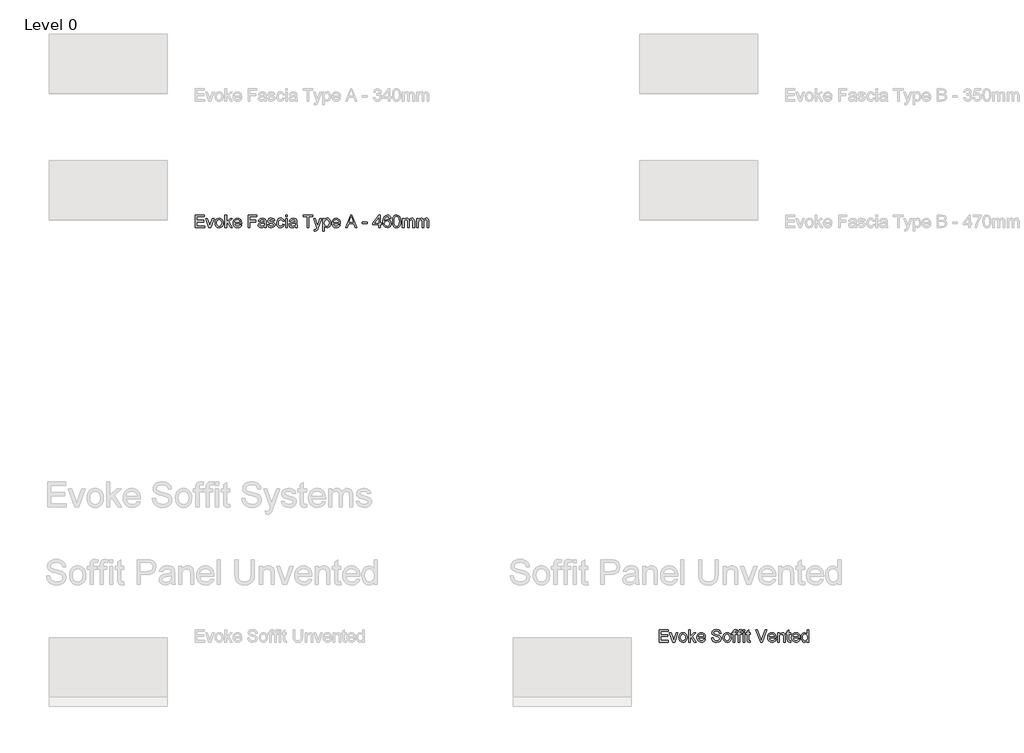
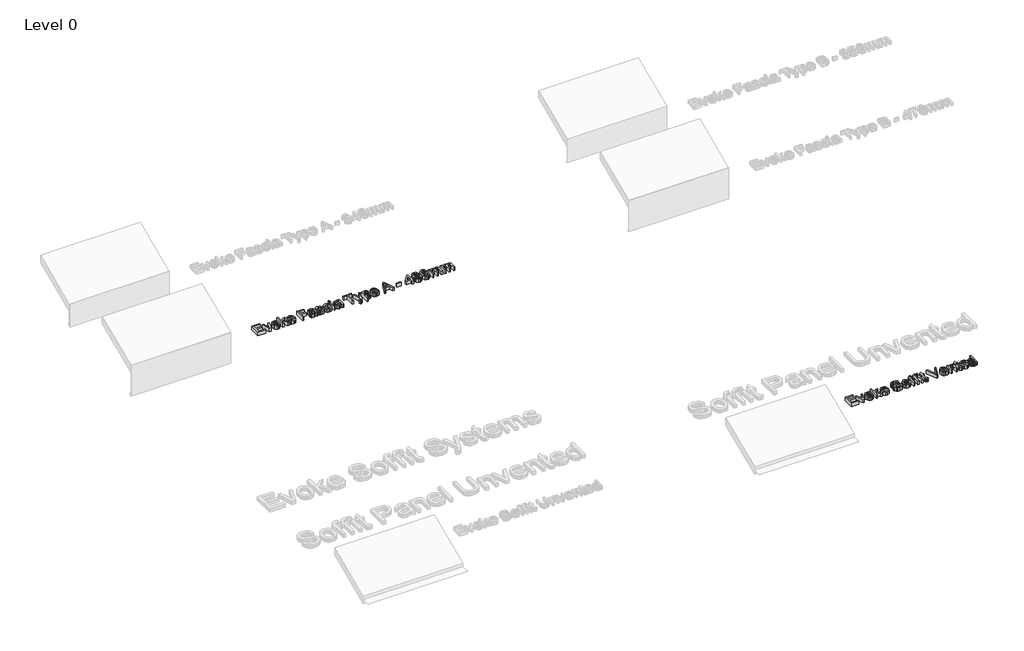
# One storey, part 3 of 13: 2 proxies.
"""IFC4 building model written with IfcOpenShell, lengths in millimetres."""

from ifc_helpers import new_model, si_unit, origin, origin_with_axes, place, context, project, spatial, polyline, outline, extrude, element, save

model = new_model("IFC4")

# Units and contexts
model_context = context("Model", 3, world=origin())
ifc_project = project(units=[si_unit("LENGTHUNIT", "METRE", prefix="MILLI")], contexts=[model_context])

# Site, building, storey
site = spatial("IfcSite", under=ifc_project)
building = spatial("IfcBuilding", under=site)
storey = spatial("IfcBuildingStorey", under=building, Name="Level 0", Elevation=0.0)

# Proxies
placement = place(None, origin())
element("IfcBuildingElementProxy", 1, Name="150mm Arial", ObjectType="150mm Arial", at=placement, inside=storey, context=model_context, shape_type="SweptSolid", body=[
    extrude(outline(polyline([(-1431.2798957, -139.3317689), (-1431.2798957, 8.3605388), (-1325.1260496, 8.3605388), (-1325.1260496, -10.1009997), (-1412.8183573, -10.1009997), (-1412.8183573, -53.9471535), (-1329.7414342, -53.9471535), (-1329.7414342, -72.408692), (-1412.8183573, -72.408692), (-1412.8183573, -120.8702305), (-1322.8183573, -120.8702305), (-1322.8183573, -139.3317689), (-1431.2798957, -139.3317689)])), origin_with_axes(), (0.0, 0.0, 1.0), 50.0),
    extrude(outline(polyline([(-1270.823165, -139.3317689), (-1308.9722034, -30.8702305), (-1289.4289342, -30.8702305), (-1266.3159534, -95.846192), (-1259.3568188, -117.6971535), (-1252.541915, -97.0721535), (-1229.2847034, -30.8702305), (-1209.7414342, -30.8702305), (-1247.4217226, -139.3317689), (-1270.823165, -139.3317689)])), origin_with_axes(), (0.0, 0.0, 1.0), 50.0),
    extrude(outline(polyline([(-1198.2029726, -85.1009997), (-1194.2095832, -58.9501584), (-1182.229415, -40.5697497), (-1167.4277323, -31.564341), (-1149.7053765, -28.5625382), (-1130.3108452, -32.2178867), (-1114.8195592, -43.1839324), (-1104.6648116, -60.5952906), (-1101.2798957, -83.5865766), (-1102.77629, -102.237418), (-1107.2654726, -116.4351343), (-1114.6167347, -127.0676463), (-1124.6993669, -135.0228747), (-1136.6750279, -139.9853146), (-1149.7053765, -141.6394612), (-1169.3342827, -137.9976343), (-1184.80754, -127.0721535), (-1194.8541145, -109.2957112), (-1198.2029726, -85.1009997)]), holes=[polyline([(-1179.7414342, -85.064942), (-1177.6050159, -101.7731752), (-1171.1957611, -113.6767209), (-1161.5503284, -120.8026223), (-1149.7053765, -123.1779228), (-1137.9145111, -120.7891007), (-1128.2871073, -113.6226343), (-1121.8778525, -101.5613362), (-1119.7414342, -84.4880189), (-1121.8913741, -68.2665646), (-1128.3411938, -56.5252785), (-1137.9821193, -49.3993771), (-1149.7053765, -47.0240766), (-1161.5503284, -49.3903627), (-1171.1957611, -56.4892209), (-1177.6050159, -68.3657233), (-1179.7414342, -85.064942)])]), origin_with_axes(), (0.0, 0.0, 1.0), 50.0),
    extrude(outline(polyline([(-1080.510665, -139.3317689), (-1080.510665, 8.3605388), (-1062.0491265, 8.3605388), (-1062.0491265, -71.002442), (-1020.6548957, -30.8702305), (-995.1260496, -30.8702305), (-1037.025088, -71.5072497), (-992.8183573, -139.3317689), (-1014.3808573, -139.3317689), (-1050.2582611, -84.3437882), (-1062.0491265, -95.7740766), (-1062.0491265, -139.3317689), (-1080.510665, -139.3317689)])), origin_with_axes(), (0.0, 0.0, 1.0), 50.0),
    extrude(outline(polyline([(-900.7270111, -107.0240766), (-882.6260496, -109.3317689), (-889.1479847, -122.970591), (-899.5551361, -133.1659035), (-913.6131289, -139.5210718), (-931.087588, -141.6394612), (-952.7492467, -137.9841127), (-969.416915, -127.018067), (-980.0449198, -109.4534636), (-983.587588, -86.002442), (-980.0088621, -61.7626584), (-969.2726842, -43.6346535), (-952.8303765, -32.330567), (-932.1332611, -28.5625382), (-912.080677, -32.3215526), (-896.05754, -43.5985959), (-885.5512299, -61.690543), (-882.0491265, -85.8942689), (-882.1572996, -90.8702305), (-965.1260496, -90.8702305), (-961.9304366, -104.689341), (-954.5070592, -114.8485959), (-943.7934174, -121.095591), (-930.7270111, -123.1779228), (-912.6260496, -119.3197497), (-900.7270111, -107.0240766)]), holes=[polyline([(-965.1260496, -72.408692), (-900.510665, -72.408692), (-903.0076601, -62.6550862), (-907.9024919, -55.6779228), (-918.665713, -49.1875382), (-932.2053765, -47.0240766), (-944.6497876, -48.7503386), (-954.9397515, -53.9291247), (-962.0926962, -62.0015406), (-965.1260496, -72.408692)])]), origin_with_axes(), (0.0, 0.0, 1.0), 50.0),
    extrude(outline(polyline([(-803.587588, -139.3317689), (-803.587588, 8.3605388), (-704.3568188, 8.3605388), (-704.3568188, -10.1009997), (-785.1260496, -10.1009997), (-785.1260496, -53.9471535), (-715.8952803, -53.9471535), (-715.8952803, -72.408692), (-785.1260496, -72.408692), (-785.1260496, -139.3317689), (-803.587588, -139.3317689)])), origin_with_axes(), (0.0, 0.0, 1.0), 50.0),
    extrude(outline(polyline([(-612.0491265, -125.4856151), (-629.9517707, -137.9976343), (-649.729415, -141.6394612), (-665.1576001, -139.4489564), (-676.5383092, -132.877442), (-683.5560376, -122.8984757), (-685.8952803, -110.4856151), (-682.3616265, -95.8822497), (-673.0767707, -85.2812882), (-660.150088, -79.2235959), (-644.1765303, -76.4471535), (-612.1572996, -70.1009997), (-612.0491265, -65.9904228), (-613.3201601, -57.7512401), (-617.1332611, -52.3606151), (-625.6609053, -48.3582112), (-637.541915, -47.0240766), (-656.2197996, -50.5757593), (-665.1260496, -63.1779228), (-683.587588, -60.8702305), (-675.6008092, -42.8413843), (-659.5190784, -32.2764805), (-635.1621073, -28.5625382), (-612.7883092, -31.8437882), (-600.150088, -40.0829709), (-594.4890303, -52.6130189), (-593.587588, -68.7668651), (-593.587588, -91.7356151), (-592.650088, -123.8089324), (-588.9722034, -139.3317689), (-607.4337419, -139.3317689), (-612.0491265, -125.4856151)]), holes=[polyline([(-612.0491265, -88.5625382), (-641.8327803, -94.2235959), (-657.7161938, -97.2163843), (-664.9097034, -102.0841728), (-667.4337419, -109.1875382), (-661.9349438, -119.1755189), (-645.7991265, -123.1779228), (-627.1212419, -118.7608555), (-615.0779726, -108.0697497), (-612.1572996, -93.7909035), (-612.0491265, -88.5625382)])]), origin_with_axes(), (0.0, 0.0, 1.0), 50.0),
    extrude(outline(polyline([(-575.1260496, -107.0240766), (-556.6645111, -104.7163843), (-553.7528525, -112.6130189), (-548.118838, -118.4183074), (-528.5395111, -123.1779228), (-509.7173957, -118.814942), (-503.587588, -108.5745574), (-509.7534534, -100.2812882), (-528.7558573, -95.0168651), (-556.556338, -85.9844132), (-568.6897515, -75.4375382), (-572.8183573, -60.5457112), (-569.5010496, -46.7897016), (-560.4505688, -36.2788843), (-548.71379, -30.8161439), (-532.8303765, -28.5625382), (-510.3664342, -32.1863362), (-496.087588, -41.9940285), (-489.7414342, -58.5625382), (-508.2029726, -60.8702305), (-515.1440784, -50.6839324), (-531.3880688, -47.0240766), (-549.056338, -50.5216728), (-554.3568188, -58.6707112), (-552.1572996, -64.0433074), (-545.2702803, -68.1178266), (-529.368838, -72.0481151), (-502.2714823, -80.7380189), (-489.6873476, -90.5817689), (-485.1260496, -106.627442), (-490.4806169, -124.2957112), (-505.931338, -137.1142209), (-528.791915, -141.6394612), (-547.4066986, -139.4579709), (-560.9914342, -132.9134997), (-570.0599438, -122.0781632), (-575.1260496, -107.0240766)])), origin_with_axes(), (0.0, 0.0, 1.0), 50.0),
    extrude(outline(polyline([(-395.1260496, -100.1009997), (-376.6645111, -102.408692), (-381.8117467, -118.8284636), (-391.4842226, -131.236817), (-404.7714823, -139.0388002), (-420.7630688, -141.6394612), (-440.4009895, -138.0111559), (-455.7570592, -127.1262401), (-465.6684174, -109.4624781), (-468.9722034, -85.4976343), (-463.3291746, -54.830567), (-456.2077803, -43.3326704), (-446.1296553, -35.1250382), (-434.0728645, -30.2031632), (-421.0154726, -28.5625382), (-405.4160135, -30.8161439), (-392.9445592, -37.5769612), (-383.9977443, -48.4844132), (-378.9722034, -63.1779228), (-397.4337419, -65.4856151), (-405.9974438, -51.6574901), (-420.8712419, -47.0240766), (-432.8018308, -49.3047257), (-442.2714823, -56.1466728), (-448.4508693, -67.9195093), (-450.510665, -84.9928266), (-448.4959414, -102.2960117), (-442.4517707, -114.1094132), (-433.1533933, -120.9107954), (-421.3760496, -123.1779228), (-411.8162539, -121.7626584), (-403.978213, -117.5168651), (-398.2765904, -110.3323699), (-395.1260496, -100.1009997)])), origin_with_axes(), (0.0, 0.0, 1.0), 50.0),
    extrude(outline(polyline([(-360.510665, -10.1009997), (-360.510665, 8.3605388), (-342.0491265, 8.3605388), (-342.0491265, -10.1009997), (-360.510665, -10.1009997)])), origin_with_axes(), (0.0, 0.0, 1.0), 50.0),
    extrude(outline(polyline([(-360.510665, -139.3317689), (-360.510665, -30.8702305), (-342.0491265, -30.8702305), (-342.0491265, -139.3317689), (-360.510665, -139.3317689)])), origin_with_axes(), (0.0, 0.0, 1.0), 50.0),
    extrude(outline(polyline([(-245.1260496, -125.4856151), (-263.0286938, -137.9976343), (-282.806338, -141.6394612), (-298.2345231, -139.4489564), (-309.6152323, -132.877442), (-316.6329606, -122.8984757), (-318.9722034, -110.4856151), (-315.4385496, -95.8822497), (-306.1536938, -85.2812882), (-293.2270111, -79.2235959), (-277.2534534, -76.4471535), (-245.2342226, -70.1009997), (-245.1260496, -65.9904228), (-246.3970832, -57.7512401), (-250.2101842, -52.3606151), (-258.7378284, -48.3582112), (-270.618838, -47.0240766), (-289.2967226, -50.5757593), (-298.2029726, -63.1779228), (-316.6645111, -60.8702305), (-308.6777323, -42.8413843), (-292.5960015, -32.2764805), (-268.2390303, -28.5625382), (-245.8652323, -31.8437882), (-233.2270111, -40.0829709), (-227.5659534, -52.6130189), (-226.6645111, -68.7668651), (-226.6645111, -91.7356151), (-225.7270111, -123.8089324), (-222.0491265, -139.3317689), (-240.510665, -139.3317689), (-245.1260496, -125.4856151)]), holes=[polyline([(-245.1260496, -88.5625382), (-274.9097034, -94.2235959), (-290.7931169, -97.2163843), (-297.9866265, -102.0841728), (-300.510665, -109.1875382), (-295.0118669, -119.1755189), (-278.8760496, -123.1779228), (-260.198165, -118.7608555), (-248.1548957, -108.0697497), (-245.2342226, -93.7909035), (-245.1260496, -88.5625382)])]), origin_with_axes(), (0.0, 0.0, 1.0), 50.0),
    extrude(outline(polyline([(-104.3568188, -139.3317689), (-104.3568188, -10.1009997), (-152.8183573, -10.1009997), (-152.8183573, 8.3605388), (-37.4337419, 8.3605388), (-37.4337419, -10.1009997), (-85.8952803, -10.1009997), (-85.8952803, -139.3317689), (-104.3568188, -139.3317689)])), origin_with_axes(), (0.0, 0.0, 1.0), 50.0),
    extrude(outline(polyline([(-18.9722034, -180.8702305), (-21.2798957, -163.0937882), (-11.9048957, -164.7163843), (-3.1428765, -162.6791247), (2.2297197, -157.0000382), (7.2777966, -143.4062882), (8.7201043, -138.9351343), (-30.510665, -30.8702305), (-11.0395111, -30.8702305), (9.7657774, -91.0865766), (17.0133735, -115.1731151), (24.2609697, -93.8990766), (45.6431812, -30.8702305), (64.9701043, -30.8702305), (27.2177004, -141.9279228), (17.4100081, -166.0144612), (6.7008735, -179.0312882), (-7.6861457, -183.1779228), (-18.9722034, -180.8702305)])), origin_with_axes(), (0.0, 0.0, 1.0), 50.0),
    extrude(outline(polyline([(80.2585658, -180.8702305), (80.2585658, -30.8702305), (98.7201043, -30.8702305), (98.7201043, -48.971192), (111.4845274, -33.6647016), (128.7201043, -28.5625382), (141.2050802, -30.3473939), (152.1215466, -35.7019612), (161.0097677, -44.3017209), (167.4100081, -55.8221535), (172.5662581, -84.2716728), (171.1104288, -100.0604348), (166.7429408, -114.1815285), (159.6035177, -125.9183074), (149.8318831, -134.5541247), (138.451174, -139.8681271), (126.4845274, -141.6394612), (110.4208254, -136.8978747), (98.7201043, -124.908692), (98.7201043, -180.8702305), (80.2585658, -180.8702305)]), holes=[polyline([(98.7201043, -85.9663843), (100.716799, -102.5168651), (106.7068831, -114.0913843), (115.5455249, -120.9062882), (126.0878927, -123.1779228), (136.8015346, -120.8251584), (145.865537, -113.7668651), (152.044924, -101.768668), (154.1047197, -84.596192), (152.0945033, -68.1358555), (146.0638543, -56.3990766), (137.2387341, -49.3678266), (126.8451043, -47.0240766), (116.4109096, -49.5165646), (107.2477485, -56.9940285), (100.8520153, -69.2220934), (98.7201043, -85.9663843)])]), origin_with_axes(), (0.0, 0.0, 1.0), 50.0),
    extrude(outline(polyline([(269.2729889, -107.0240766), (287.3739504, -109.3317689), (280.8520153, -122.970591), (270.4448639, -133.1659035), (256.3868711, -139.5210718), (238.912412, -141.6394612), (217.2507533, -137.9841127), (200.583085, -127.018067), (189.9550802, -109.4534636), (186.412412, -86.002442), (189.9911379, -61.7626584), (200.7273158, -43.6346535), (217.1696235, -32.330567), (237.8667389, -28.5625382), (257.919323, -32.3215526), (273.94246, -43.5985959), (284.4487701, -61.690543), (287.9508735, -85.8942689), (287.8427004, -90.8702305), (204.8739504, -90.8702305), (208.0695634, -104.689341), (215.4929408, -114.8485959), (226.2065826, -121.095591), (239.2729889, -123.1779228), (257.3739504, -119.3197497), (269.2729889, -107.0240766)]), holes=[polyline([(204.8739504, -72.408692), (269.489335, -72.408692), (266.9923399, -62.6550862), (262.0975081, -55.6779228), (251.334287, -49.1875382), (237.7946235, -47.0240766), (225.3502124, -48.7503386), (215.0602485, -53.9291247), (207.9073038, -62.0015406), (204.8739504, -72.408692)])]), origin_with_axes(), (0.0, 0.0, 1.0), 50.0),
    extrude(outline(polyline([(349.2128927, -139.3317689), (408.1672197, 8.3605388), (423.8883735, 8.3605388), (482.8427004, -139.3317689), (463.3354889, -139.3317689), (446.4244312, -93.1779228), (385.5951043, -93.1779228), (368.7201043, -139.3317689), (349.2128927, -139.3317689)]), holes=[polyline([(392.3739504, -74.7163843), (439.6816427, -74.7163843), (426.3763543, -38.4062882), (416.0277966, -10.1009997), (406.833085, -35.2332112), (392.3739504, -74.7163843)])]), origin_with_axes(), (0.0, 0.0, 1.0), 50.0),
    extrude(outline(polyline([(548.7201043, -95.4856151), (548.7201043, -77.0240766), (606.412412, -77.0240766), (606.412412, -95.4856151), (548.7201043, -95.4856151)])), origin_with_axes(), (0.0, 0.0, 1.0), 50.0),
    extrude(outline(polyline([(740.2585658, -139.3317689), (740.2585658, -104.7163843), (673.3354889, -104.7163843), (673.3354889, -86.2548459), (744.8739504, 6.0528465), (758.7201043, 6.0528465), (758.7201043, -86.2548459), (777.1816427, -86.2548459), (777.1816427, -104.7163843), (758.7201043, -104.7163843), (758.7201043, -139.3317689), (740.2585658, -139.3317689)]), holes=[polyline([(740.2585658, -86.2548459), (740.2585658, -29.2115766), (696.051835, -86.2548459), (740.2585658, -86.2548459)])]), origin_with_axes(), (0.0, 0.0, 1.0), 50.0),
    extrude(outline(polyline([(887.9508735, -30.8702305), (869.489335, -33.1779228), (862.4941427, -17.7812882), (854.1197437, -12.0210718), (843.9965466, -10.1009997), (827.3378927, -14.5721535), (814.7357293, -31.3570093), (810.9091067, -45.1085117), (809.489335, -64.2596535), (825.7693831, -49.5300862), (845.943662, -44.7163843), (862.9989504, -48.0066487), (877.3138543, -57.877442), (887.0223879, -72.9585718), (890.2585658, -91.8798459), (888.7351283, -105.0994973), (884.1648158, -117.3546055), (876.9262341, -127.7482353), (867.3979889, -135.3834516), (856.0127725, -140.0754588), (843.2032774, -141.6394612), (822.2582653, -137.4928266), (805.5770754, -125.0529228), (794.6651163, -103.0937882), (791.0277966, -70.3894612), (795.0662581, -33.6196295), (807.1816427, -8.4784035), (823.7231091, 4.1508032), (845.1503927, 8.3605388), (861.349311, 5.7553705), (874.3210658, -2.0601343), (883.4076043, -14.4729949), (887.9508735, -30.8702305)]), holes=[polyline([(809.489335, -91.5913843), (813.7621716, -107.5829709), (825.1203447, -119.1935478), (841.7609697, -123.1779228), (853.9439624, -121.1136199), (863.521787, -114.9207112), (869.7282173, -105.1851343), (871.7970274, -92.4928266), (869.7552605, -80.3098338), (863.62996, -71.0204709), (853.8898759, -65.1385598), (841.0037581, -63.1779228), (828.8387942, -65.1385598), (818.6660177, -71.0204709), (811.7835057, -80.0844733), (809.489335, -91.5913843)])]), origin_with_axes(), (0.0, 0.0, 1.0), 50.0),
    extrude(outline(polyline([(906.412412, -66.6755189), (907.7690826, -43.0351944), (911.8390947, -24.1815285), (918.5818831, -9.8260598), (927.9568831, 0.3196734), (940.0317028, 6.3503224), (954.8739504, 8.3605388), (976.4364504, 3.6009234), (991.3282774, -10.1190285), (999.9821235, -31.9699901), (1003.3354889, -66.6755189), (1001.9923399, -90.1806271), (997.9628927, -108.9892209), (991.2606692, -123.3582112), (981.8991908, -133.5445093), (969.7973278, -139.6157233), (954.8739504, -141.6394612), (935.6912581, -138.1238362), (921.1239504, -127.5769612), (910.0902966, -102.5979949), (906.412412, -66.6755189)]), holes=[polyline([(924.8739504, -66.6394612), (927.037412, -95.6794252), (933.5277966, -112.486817), (943.1912581, -120.5051463), (954.8739504, -123.1779228), (966.5566427, -120.4961319), (976.2201043, -112.4507593), (982.7104889, -95.6343531), (984.8739504, -66.6394612), (982.7826043, -38.253043), (976.5085658, -21.314942), (966.8631331, -12.9044853), (954.6576043, -10.1009997), (943.1011139, -12.5709516), (933.8162581, -19.9808074), (927.1095274, -37.9735959), (924.8739504, -66.6394612)])]), origin_with_axes(), (0.0, 0.0, 1.0), 50.0),
    extrude(outline(polyline([(1024.1047197, -139.3317689), (1024.1047197, -30.8702305), (1042.5662581, -30.8702305), (1042.5662581, -48.7187882), (1055.2585658, -34.0973939), (1073.3234697, -28.5625382), (1083.5908975, -29.9732954), (1091.8210658, -34.205567), (1101.989335, -50.0168651), (1116.3943831, -33.9261199), (1134.5854889, -28.5625382), (1148.4631932, -30.7936079), (1158.7261139, -37.486817), (1165.0677605, -48.822454), (1167.1816427, -64.9808074), (1167.1816427, -139.3317689), (1148.7201043, -139.3317689), (1148.7201043, -72.9134997), (1147.0073639, -57.4988362), (1140.8054408, -49.908692), (1130.2585658, -47.0240766), (1120.2570634, -48.8720334), (1112.1035177, -54.4159035), (1106.6813423, -64.034293), (1104.8739504, -78.1058074), (1104.8739504, -139.3317689), (1086.412412, -139.3317689), (1086.412412, -70.8582112), (1082.1395754, -52.9735959), (1076.5010538, -48.5114564), (1068.131162, -47.0240766), (1054.4652966, -50.9904228), (1045.3787581, -62.6009997), (1042.5662581, -84.6322497), (1042.5662581, -139.3317689), (1024.1047197, -139.3317689)])), origin_with_axes(), (0.0, 0.0, 1.0), 50.0),
    extrude(outline(polyline([(1194.8739504, -139.3317689), (1194.8739504, -30.8702305), (1213.3354889, -30.8702305), (1213.3354889, -48.7187882), (1226.0277966, -34.0973939), (1244.0927004, -28.5625382), (1254.3601283, -29.9732954), (1262.5902966, -34.205567), (1272.7585658, -50.0168651), (1287.1636139, -33.9261199), (1305.3547197, -28.5625382), (1319.232424, -30.7936079), (1329.4953447, -37.486817), (1335.8369913, -48.822454), (1337.9508735, -64.9808074), (1337.9508735, -139.3317689), (1319.489335, -139.3317689), (1319.489335, -72.9134997), (1317.7765947, -57.4988362), (1311.5746716, -49.908692), (1301.0277966, -47.0240766), (1291.0262942, -48.8720334), (1282.8727485, -54.4159035), (1277.450573, -64.034293), (1275.6431812, -78.1058074), (1275.6431812, -139.3317689), (1257.1816427, -139.3317689), (1257.1816427, -70.8582112), (1252.9088062, -52.9735959), (1247.2702846, -48.5114564), (1238.9003927, -47.0240766), (1225.2345274, -50.9904228), (1216.1479889, -62.6009997), (1213.3354889, -84.6322497), (1213.3354889, -139.3317689), (1194.8739504, -139.3317689)])), origin_with_axes(), (0.0, 0.0, 1.0), 50.0),
])
element("IfcBuildingElementProxy", 2, Name="150mm Arial", ObjectType="150mm Arial", at=placement, inside=storey, context=model_context, shape_type="SweptSolid", body=[
    extrude(outline(polyline([(4068.7201043, -5059.3317689), (4068.7201043, -4911.6394612), (4174.8739504, -4911.6394612), (4174.8739504, -4930.1009997), (4087.1816427, -4930.1009997), (4087.1816427, -4973.9471535), (4170.2585658, -4973.9471535), (4170.2585658, -4992.408692), (4087.1816427, -4992.408692), (4087.1816427, -5040.8702305), (4177.1816427, -5040.8702305), (4177.1816427, -5059.3317689), (4068.7201043, -5059.3317689)])), origin_with_axes(), (0.0, 0.0, 1.0), 50.0),
    extrude(outline(polyline([(4229.176835, -5059.3317689), (4191.0277966, -4950.8702305), (4210.5710658, -4950.8702305), (4233.6840466, -5015.846192), (4240.6431812, -5037.6971535), (4247.458085, -5017.0721535), (4270.7152966, -4950.8702305), (4290.2585658, -4950.8702305), (4252.5782774, -5059.3317689), (4229.176835, -5059.3317689)])), origin_with_axes(), (0.0, 0.0, 1.0), 50.0),
    extrude(outline(polyline([(4301.7970274, -5005.1009997), (4305.7904168, -4978.9501584), (4317.770585, -4960.5697497), (4332.5722677, -4951.564341), (4350.2946235, -4948.5625382), (4369.6891548, -4952.2178867), (4385.1804408, -4963.1839324), (4395.3351884, -4980.5952906), (4398.7201043, -5003.5865766), (4397.22371, -5022.237418), (4392.7345274, -5036.4351343), (4385.3832653, -5047.0676463), (4375.3006331, -5055.0228747), (4363.3249721, -5059.9853146), (4350.2946235, -5061.6394612), (4330.6657173, -5057.9976343), (4315.19246, -5047.0721535), (4305.1458855, -5029.2957112), (4301.7970274, -5005.1009997)]), holes=[polyline([(4320.2585658, -5005.064942), (4322.3949841, -5021.7731752), (4328.8042389, -5033.6767209), (4338.4496716, -5040.8026223), (4350.2946235, -5043.1779228), (4362.0854889, -5040.7891007), (4371.7128927, -5033.6226343), (4378.1221475, -5021.5613362), (4380.2585658, -5004.4880189), (4378.1086259, -4988.2665646), (4371.6588062, -4976.5252785), (4362.0178807, -4969.3993771), (4350.2946235, -4967.0240766), (4338.4496716, -4969.3903627), (4328.8042389, -4976.4892209), (4322.3949841, -4988.3657233), (4320.2585658, -5005.064942)])]), origin_with_axes(), (0.0, 0.0, 1.0), 50.0),
    extrude(outline(polyline([(4419.489335, -5059.3317689), (4419.489335, -4911.6394612), (4437.9508735, -4911.6394612), (4437.9508735, -4991.002442), (4479.3451043, -4950.8702305), (4504.8739504, -4950.8702305), (4462.974912, -4991.5072497), (4507.1816427, -5059.3317689), (4485.6191427, -5059.3317689), (4449.7417389, -5004.3437882), (4437.9508735, -5015.7740766), (4437.9508735, -5059.3317689), (4419.489335, -5059.3317689)])), origin_with_axes(), (0.0, 0.0, 1.0), 50.0),
    extrude(outline(polyline([(4599.2729889, -5027.0240766), (4617.3739504, -5029.3317689), (4610.8520153, -5042.970591), (4600.4448639, -5053.1659035), (4586.3868711, -5059.5210718), (4568.912412, -5061.6394612), (4547.2507533, -5057.9841127), (4530.583085, -5047.018067), (4519.9550802, -5029.4534636), (4516.412412, -5006.002442), (4519.9911379, -4981.7626584), (4530.7273158, -4963.6346535), (4547.1696235, -4952.330567), (4567.8667389, -4948.5625382), (4587.919323, -4952.3215526), (4603.94246, -4963.5985959), (4614.4487701, -4981.690543), (4617.9508735, -5005.8942689), (4617.8427004, -5010.8702305), (4534.8739504, -5010.8702305), (4538.0695634, -5024.689341), (4545.4929408, -5034.8485959), (4556.2065826, -5041.095591), (4569.2729889, -5043.1779228), (4587.3739504, -5039.3197497), (4599.2729889, -5027.0240766)]), holes=[polyline([(4534.8739504, -4992.408692), (4599.489335, -4992.408692), (4596.9923399, -4982.6550862), (4592.0975081, -4975.6779228), (4581.334287, -4969.1875382), (4567.7946235, -4967.0240766), (4555.3502124, -4968.7503386), (4545.0602485, -4973.9291247), (4537.9073038, -4982.0015406), (4534.8739504, -4992.408692)])]), origin_with_axes(), (0.0, 0.0, 1.0), 50.0),
    extrude(outline(polyline([(4689.489335, -5008.5625382), (4707.9508735, -5008.5625382), (4713.9003927, -5027.0421055), (4728.4316427, -5038.7247978), (4750.5710658, -5043.1779228), (4769.8619312, -5039.8065285), (4782.3198639, -5030.5397016), (4786.412412, -5018.1538843), (4783.3475081, -5006.6334516), (4770.7994312, -4998.2500382), (4743.9184216, -4991.2007593), (4714.9821235, -4982.096192), (4699.2789985, -4968.3582112), (4694.1047197, -4950.0048459), (4695.7047798, -4939.1920454), (4700.50496, -4929.1094132), (4708.3790586, -4920.5637401), (4719.2008735, -4914.361817), (4746.568662, -4909.3317689), (4775.7753927, -4914.596192), (4786.9713062, -4921.095591), (4795.2465466, -4930.064942), (4800.4839264, -4940.9453507), (4802.5662581, -4953.1779228), (4784.1047197, -4953.1779228), (4780.7152966, -4942.1622978), (4773.6479889, -4934.2115766), (4762.6053206, -4929.3978747), (4747.2898158, -4927.7933074), (4731.6137341, -4929.3798459), (4720.8595274, -4934.1394612), (4714.6395754, -4941.143668), (4712.5662581, -4949.4639805), (4714.0356091, -4956.5583314), (4718.443662, -4962.2644612), (4748.5878927, -4972.5769612), (4781.256162, -4981.8437882), (4791.7805009, -4988.5415045), (4799.1227485, -4996.8077305), (4804.8739504, -5017.6851343), (4803.2198038, -5029.0658434), (4798.2573639, -5039.7704709), (4790.1894552, -5048.9832112), (4779.2189024, -5055.8882593), (4751.2922197, -5061.6394612), (4733.2047798, -5060.0889805), (4718.31746, -5055.4375382), (4706.4589865, -5047.6671055), (4697.458085, -5036.7596535), (4691.6798399, -5023.4723939), (4689.489335, -5008.5625382)])), origin_with_axes(), (0.0, 0.0, 1.0), 50.0),
    extrude(outline(polyline([(4825.6431812, -5005.1009997), (4829.6365706, -4978.9501584), (4841.6167389, -4960.5697497), (4856.4184216, -4951.564341), (4874.1407774, -4948.5625382), (4893.5353086, -4952.2178867), (4909.0265947, -4963.1839324), (4919.1813423, -4980.5952906), (4922.5662581, -5003.5865766), (4921.0698639, -5022.237418), (4916.5806812, -5036.4351343), (4909.2294192, -5047.0676463), (4899.146787, -5055.0228747), (4887.1711259, -5059.9853146), (4874.1407774, -5061.6394612), (4854.5118711, -5057.9976343), (4839.0386139, -5047.0721535), (4828.9920394, -5029.2957112), (4825.6431812, -5005.1009997)]), holes=[polyline([(4844.1047197, -5005.064942), (4846.2411379, -5021.7731752), (4852.6503927, -5033.6767209), (4862.2958254, -5040.8026223), (4874.1407774, -5043.1779228), (4885.9316427, -5040.7891007), (4895.5590466, -5033.6226343), (4901.9683014, -5021.5613362), (4904.1047197, -5004.4880189), (4901.9547798, -4988.2665646), (4895.50496, -4976.5252785), (4885.8640346, -4969.3993771), (4874.1407774, -4967.0240766), (4862.2958254, -4969.3903627), (4852.6503927, -4976.4892209), (4846.2411379, -4988.3657233), (4844.1047197, -5005.064942)])]), origin_with_axes(), (0.0, 0.0, 1.0), 50.0),
    extrude(outline(polyline([(4947.9508735, -5059.3317689), (4947.9508735, -4969.3317689), (4931.7970274, -4969.3317689), (4931.7970274, -4950.8702305), (4947.9508735, -4950.8702305), (4947.9508735, -4939.9447497), (4949.8979889, -4924.5481151), (4959.3451043, -4913.5505189), (4977.9508735, -4909.3317689), (4994.7898158, -4911.3509997), (4992.0854889, -4928.658692), (4981.4484697, -4927.7933074), (4969.8198639, -4930.8582112), (4966.412412, -4942.2884997), (4966.412412, -4950.8702305), (4987.1816427, -4950.8702305), (4987.1816427, -4969.3317689), (4966.412412, -4969.3317689), (4966.412412, -5059.3317689), (4947.9508735, -5059.3317689)])), origin_with_axes(), (0.0, 0.0, 1.0), 50.0),
    extrude(outline(polyline([(5007.9508735, -5059.3317689), (5007.9508735, -4969.3317689), (4991.7970274, -4969.3317689), (4991.7970274, -4950.8702305), (5007.9508735, -4950.8702305), (5007.9508735, -4939.9447497), (5009.8979889, -4924.5481151), (5019.3451043, -4913.5505189), (5037.9508735, -4909.3317689), (5054.7898158, -4911.3509997), (5052.0854889, -4928.658692), (5041.4484697, -4927.7933074), (5029.8198639, -4930.8582112), (5026.412412, -4942.2884997), (5026.412412, -4950.8702305), (5047.1816427, -4950.8702305), (5047.1816427, -4969.3317689), (5026.412412, -4969.3317689), (5026.412412, -5059.3317689), (5007.9508735, -5059.3317689)])), origin_with_axes(), (0.0, 0.0, 1.0), 50.0),
    extrude(outline(polyline([(5063.3354889, -4930.1009997), (5063.3354889, -4911.6394612), (5081.7970274, -4911.6394612), (5081.7970274, -4930.1009997), (5063.3354889, -4930.1009997)])), origin_with_axes(), (0.0, 0.0, 1.0), 50.0),
    extrude(outline(polyline([(5063.3354889, -5059.3317689), (5063.3354889, -4950.8702305), (5081.7970274, -4950.8702305), (5081.7970274, -5059.3317689), (5063.3354889, -5059.3317689)])), origin_with_axes(), (0.0, 0.0, 1.0), 50.0),
    extrude(outline(polyline([(5148.7201043, -5043.9351343), (5151.0277966, -5059.8726343), (5137.2177004, -5061.6394612), (5121.7489504, -5058.5745574), (5114.0326043, -5050.533692), (5111.7970274, -5029.5841728), (5111.7970274, -4969.3317689), (5097.9508735, -4969.3317689), (5097.9508735, -4950.8702305), (5111.7970274, -4950.8702305), (5111.7970274, -4924.5120574), (5130.2585658, -4913.658692), (5130.2585658, -4950.8702305), (5148.7201043, -4950.8702305), (5148.7201043, -4969.3317689), (5130.2585658, -4969.3317689), (5130.2585658, -5029.0433074), (5131.2321235, -5038.5625382), (5134.3871716, -5041.9339324), (5140.6792389, -5043.1779228), (5148.7201043, -5043.9351343)])), origin_with_axes(), (0.0, 0.0, 1.0), 50.0),
    extrude(outline(polyline([(5270.8114504, -5059.3317689), (5212.037412, -4911.6394612), (5231.7970274, -4911.6394612), (5271.1359697, -5018.0457112), (5279.1047197, -5042.0240766), (5286.9652966, -5018.0457112), (5326.412412, -4911.6394612), (5346.1720274, -4911.6394612), (5289.8859697, -5059.3317689), (5270.8114504, -5059.3317689)])), origin_with_axes(), (0.0, 0.0, 1.0), 50.0),
    extrude(outline(polyline([(5436.9652966, -5027.0240766), (5455.0662581, -5029.3317689), (5448.544323, -5042.970591), (5438.1371716, -5053.1659035), (5424.0791788, -5059.5210718), (5406.6047197, -5061.6394612), (5384.943061, -5057.9841127), (5368.2753927, -5047.018067), (5357.6473879, -5029.4534636), (5354.1047197, -5006.002442), (5357.6834456, -4981.7626584), (5368.4196235, -4963.6346535), (5384.8619312, -4952.330567), (5405.5590466, -4948.5625382), (5425.6116307, -4952.3215526), (5441.6347677, -4963.5985959), (5452.1410778, -4981.690543), (5455.6431812, -5005.8942689), (5455.5350081, -5010.8702305), (5372.5662581, -5010.8702305), (5375.7618711, -5024.689341), (5383.1852485, -5034.8485959), (5393.8988903, -5041.095591), (5406.9652966, -5043.1779228), (5425.0662581, -5039.3197497), (5436.9652966, -5027.0240766)]), holes=[polyline([(5372.5662581, -4992.408692), (5437.1816427, -4992.408692), (5434.6846475, -4982.6550862), (5429.7898158, -4975.6779228), (5419.0265947, -4969.1875382), (5405.4869312, -4967.0240766), (5393.0425201, -4968.7503386), (5382.7525562, -4973.9291247), (5375.5996115, -4982.0015406), (5372.5662581, -4992.408692)])]), origin_with_axes(), (0.0, 0.0, 1.0), 50.0),
    extrude(outline(polyline([(5474.1047197, -5059.3317689), (5474.1047197, -4950.8702305), (5492.5662581, -4950.8702305), (5492.5662581, -4966.0144612), (5506.6828447, -4952.9255189), (5525.9556812, -4948.5625382), (5543.3895754, -4952.0781632), (5555.2886139, -4961.3089324), (5560.8234697, -4974.8846535), (5561.7970274, -4992.7332112), (5561.7970274, -5059.3317689), (5543.3354889, -5059.3317689), (5543.3354889, -4995.221192), (5541.208085, -4978.8870574), (5533.6900562, -4970.2512401), (5521.0157774, -4967.0240766), (5510.2029769, -4968.8359757), (5500.9857293, -4974.2716728), (5494.6711259, -4984.7734757), (5492.5662581, -5001.783692), (5492.5662581, -5059.3317689), (5474.1047197, -5059.3317689)])), origin_with_axes(), (0.0, 0.0, 1.0), 50.0),
    extrude(outline(polyline([(5626.412412, -5043.9351343), (5628.7201043, -5059.8726343), (5614.9100081, -5061.6394612), (5599.4412581, -5058.5745574), (5591.724912, -5050.533692), (5589.489335, -5029.5841728), (5589.489335, -4969.3317689), (5575.6431812, -4969.3317689), (5575.6431812, -4950.8702305), (5589.489335, -4950.8702305), (5589.489335, -4924.5120574), (5607.9508735, -4913.658692), (5607.9508735, -4950.8702305), (5626.412412, -4950.8702305), (5626.412412, -4969.3317689), (5607.9508735, -4969.3317689), (5607.9508735, -5029.0433074), (5608.9244312, -5038.5625382), (5612.0794793, -5041.9339324), (5618.3715466, -5043.1779228), (5626.412412, -5043.9351343)])), origin_with_axes(), (0.0, 0.0, 1.0), 50.0),
    extrude(outline(polyline([(5720.8114504, -5027.0240766), (5738.912412, -5029.3317689), (5732.3904769, -5042.970591), (5721.9833254, -5053.1659035), (5707.9253326, -5059.5210718), (5690.4508735, -5061.6394612), (5668.7892149, -5057.9841127), (5652.1215466, -5047.018067), (5641.4935418, -5029.4534636), (5637.9508735, -5006.002442), (5641.5295995, -4981.7626584), (5652.2657774, -4963.6346535), (5668.708085, -4952.330567), (5689.4052004, -4948.5625382), (5709.4577846, -4952.3215526), (5725.4809216, -4963.5985959), (5735.9872317, -4981.690543), (5739.489335, -5005.8942689), (5739.381162, -5010.8702305), (5656.412412, -5010.8702305), (5659.6080249, -5024.689341), (5667.0314024, -5034.8485959), (5677.7450442, -5041.095591), (5690.8114504, -5043.1779228), (5708.912412, -5039.3197497), (5720.8114504, -5027.0240766)]), holes=[polyline([(5656.412412, -4992.408692), (5721.0277966, -4992.408692), (5718.5308014, -4982.6550862), (5713.6359697, -4975.6779228), (5702.8727485, -4969.1875382), (5689.333085, -4967.0240766), (5676.888674, -4968.7503386), (5666.59871, -4973.9291247), (5659.4457653, -4982.0015406), (5656.412412, -4992.408692)])]), origin_with_axes(), (0.0, 0.0, 1.0), 50.0),
    extrude(outline(polyline([(5824.8739504, -5059.3317689), (5824.8739504, -5041.9159035), (5812.6594072, -5056.7085718), (5795.7753927, -5061.6394612), (5783.8402966, -5059.8546055), (5772.9148158, -5054.5000382), (5763.6660177, -5045.9498579), (5756.7609697, -5034.5781632), (5752.4610899, -5020.8446896), (5751.0277966, -5005.2091728), (5756.3102485, -4975.8221535), (5762.9088062, -4964.1665045), (5772.1395754, -4955.5937882), (5783.3039384, -4950.3203507), (5795.7032774, -4948.5625382), (5812.7225081, -4953.5925862), (5824.8739504, -4966.6634997), (5824.8739504, -4911.6394612), (5843.3354889, -4911.6394612), (5843.3354889, -5059.3317689), (5824.8739504, -5059.3317689)]), holes=[polyline([(5769.489335, -5005.1370574), (5771.5716668, -5021.8362761), (5777.818662, -5033.7127785), (5786.896186, -5040.8116367), (5797.4701043, -5043.1779228), (5808.0395153, -5040.9198098), (5816.8871716, -5034.1454709), (5822.8772557, -5022.728704), (5824.8739504, -5006.5433074), (5822.841198, -4988.8479949), (5816.7429408, -4976.5793651), (5807.669924, -4969.4128987), (5796.7128927, -4967.0240766), (5786.0308014, -4969.3182473), (5777.2777966, -4976.2007593), (5771.4364504, -4988.0231752), (5769.489335, -5005.1370574)])]), origin_with_axes(), (0.0, 0.0, 1.0), 50.0),
])

save(model, "model.ifc")
